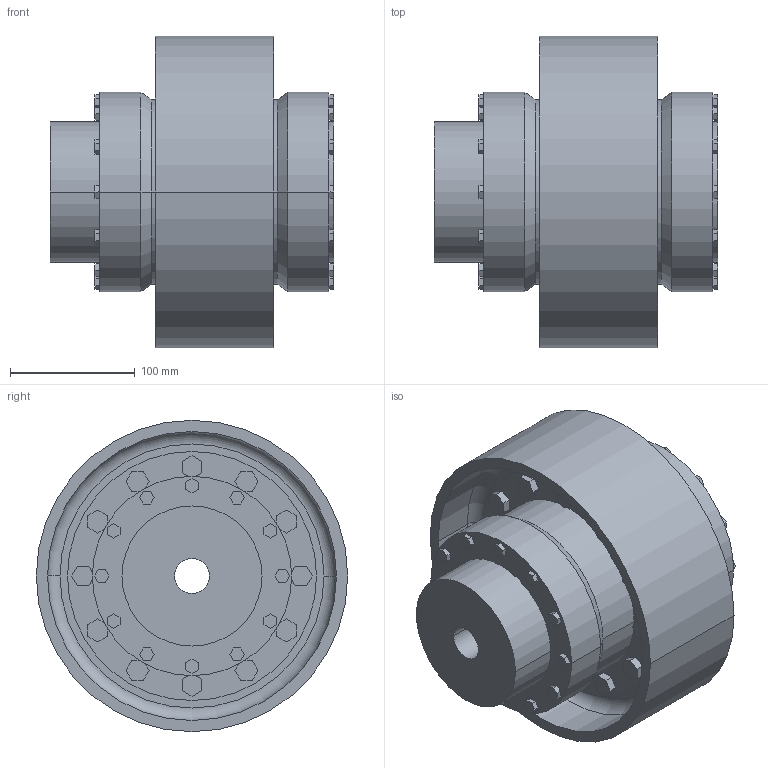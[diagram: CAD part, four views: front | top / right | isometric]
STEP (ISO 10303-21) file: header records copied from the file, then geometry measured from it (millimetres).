
FILE_DESCRIPTION((''),'2;1');
FILE_NAME('A19734200-0_ASM','2019-05-23T',('AB_Roschiwal'),('RENK AG'),'PRO/ENGINEER BY PARAMETRIC TECHNOLOGY CORPORATION, 2015440','PRO/ENGINEER BY PARAMETRIC TECHNOLOGY CORPORATION, 2015440','');
FILE_SCHEMA(('CONFIG_CONTROL_DESIGN'));
Length unit declared in the file: millimetre
Products named in the file (4): SBKD70_GEHAEUSE; SBKD70_NABE; SBKD70_BREMSSCHEIBE; A19734200-0_ASM
Assembly tree (4 placements, depth 2):
  A19734200-0_ASM
    SBKD70_GEHAEUSE
    SBKD70_NABE  x2
    SBKD70_BREMSSCHEIBE
Bounding box: 228 x 250 x 250 mm (x, y, z)
Volume: 3968096.4 mm3; surface area: 607285.3 mm2
Topology: 4 solids, 4 shells, 474 faces, 1164 edges, 772 vertices
Faces by surface type: plane 370, cylinder 96, cone 4, torus 4
Entity records: 13708 total; most frequent: CARTESIAN_POINT 2366, ORIENTED_EDGE 2280, DIRECTION 2264, EDGE_CURVE 1140, VECTOR 956, LINE 956, VERTEX_POINT 756, AXIS2_PLACEMENT_3D 654
